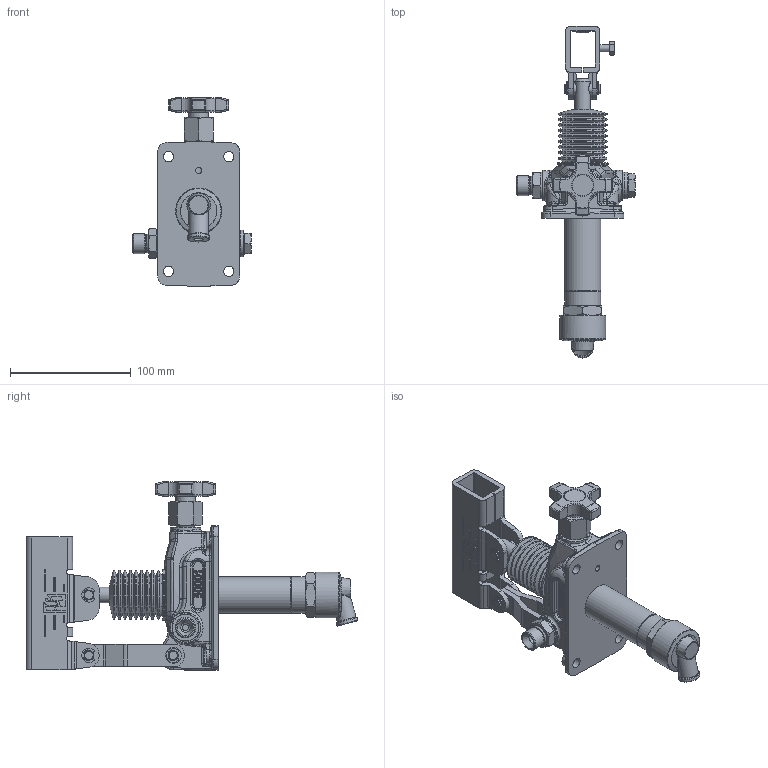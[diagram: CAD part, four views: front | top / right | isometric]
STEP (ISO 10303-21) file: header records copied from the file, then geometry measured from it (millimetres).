
FILE_DESCRIPTION( ( 'Unknown' ), '1' );
FILE_NAME( 'E:/CONVERSIONE/PAM0141202.stp', 'Unknown', ( 'Unknown' ), ( 'Unknown' ), 'PSStep 16.0.42', 'Unknown', ' ' );
FILE_SCHEMA( ( 'AUTOMOTIVE_DESIGN { 1 0 10303 214 1 1 1 1 }' ) );
Length unit declared in the file: millimetre
Products named in the file (28): MS-8170426050; MS-8170125040; MS-8170033010; MS-8170392010; MS-8170390040; MS-8170086020; MS-8170320030; MS-8170375010_ORZ - PAM 25; MS-8170278010; MS-2900008212; MS-8170278020; MS-8170320010; MS-8170434010; MS-9000426002; MS-8170320020; MS-9000620024; MS-9000850102; MS-8170459020
Bounding box: 98 x 274.79 x 156.19 mm (x, y, z)
Volume: 411835.6 mm3; surface area: 159885.4 mm2
Topology: 28 solids, 28 shells, 1682 faces, 3964 edges, 2361 vertices
Faces by surface type: cylinder 479, plane 448, bspline 369, cone 198, torus 129, sphere 57, extrusion 2
Full cylindrical faces by diameter (mm): 1.5 x1, 5 x6, 6 x7, 6.5 x2, 8 x17, 8.1 x4, 8.2 x1, 8.25 x1, 8.5 x5, 9 x1, 10 x2, 12 x1, 12.8 x2, 13 x3, 14 x4, 14.5 x1, 14.9 x1, 15 x1, 15.25 x3, 15.6 x2, 16 x4, 16.662 x4, 16.7 x2, 18 x2, 18.2 x1, 18.8 x1, 19 x1, 20 x1, 20.4 x1, 20.5 x1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
Entity records: 77906 total; most frequent: CARTESIAN_POINT 29699, ORIENTED_EDGE 7210, DIRECTION 6651, EDGE_CURVE 3605, AXIS2_PLACEMENT_3D 2736, VERTEX_POINT 2334, EDGE_LOOP 2078, FACE_OUTER_BOUND 1856
